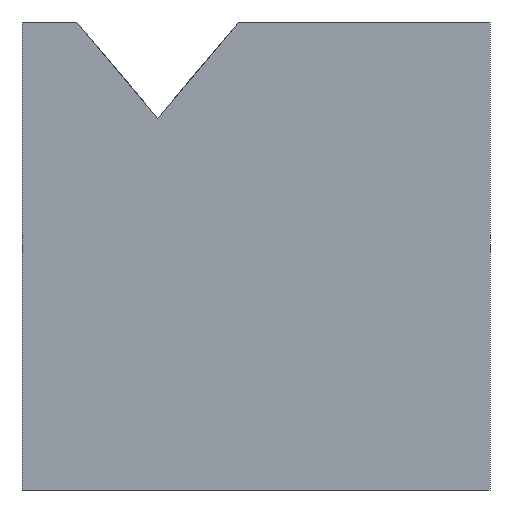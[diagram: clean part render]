
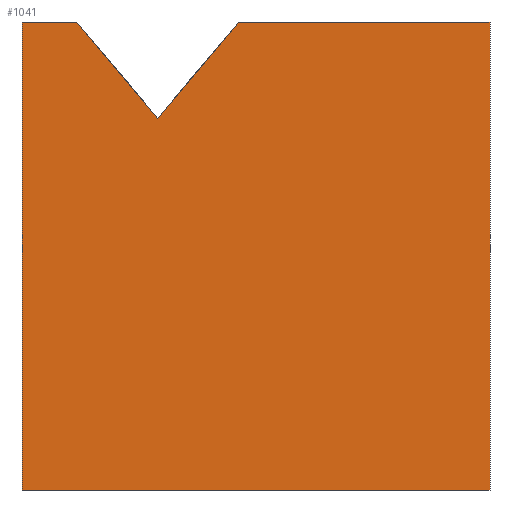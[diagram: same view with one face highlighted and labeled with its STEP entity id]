
A CAD part, front view. The second image highlights one B-rep face of the part: STEP entity #1041.
In plain terms, the highlighted planar face has unit normal (0, -1, 0).
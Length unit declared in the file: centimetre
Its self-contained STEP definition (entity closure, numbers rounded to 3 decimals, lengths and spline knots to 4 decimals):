
#3 = LINE ( 'NONE', #389, #436 ) ;
#23 = LINE ( 'NONE', #394, #724 ) ;
#49 = CARTESIAN_POINT ( 'NONE',  ( 290.0061, 0., 794.0008 ) ) ;
#83 = LINE ( 'NONE', #661, #259 ) ;
#98 = VECTOR ( 'NONE', #574, 100. ) ;
#104 = CARTESIAN_POINT ( 'NONE',  ( 0., 0., 1000. ) ) ;
#123 = DIRECTION ( 'NONE',  ( 1., 0., 0. ) ) ;
#140 = VECTOR ( 'NONE', #123, 100. ) ;
#141 = EDGE_CURVE ( 'NONE', #845, #633, #83, .T. ) ;
#149 = EDGE_LOOP ( 'NONE', ( #388, #446, #1159, #409, #181, #925, #331 ) ) ;
#171 = LINE ( 'NONE', #381, #98 ) ;
#181 = ORIENTED_EDGE ( 'NONE', *, *, #694, .T. ) ;
#194 = CARTESIAN_POINT ( 'NONE',  ( 117.1942, 0., 1000. ) ) ;
#259 = VECTOR ( 'NONE', #581, 100. ) ;
#271 = CARTESIAN_POINT ( 'NONE',  ( 1000., 0., 1000. ) ) ;
#307 = DIRECTION ( 'NONE',  ( 0., 1., 0. ) ) ;
#312 = CARTESIAN_POINT ( 'NONE',  ( 0., 0., 0. ) ) ;
#331 = ORIENTED_EDGE ( 'NONE', *, *, #572, .F. ) ;
#352 = VERTEX_POINT ( 'NONE', #104 ) ;
#380 = AXIS2_PLACEMENT_3D ( 'NONE', #393, #307, #1065 ) ;
#381 = CARTESIAN_POINT ( 'NONE',  ( 0., 0., 1000. ) ) ;
#388 = ORIENTED_EDGE ( 'NONE', *, *, #1215, .F. ) ;
#389 = CARTESIAN_POINT ( 'NONE',  ( 0., 0., 0. ) ) ;
#393 = CARTESIAN_POINT ( 'NONE',  ( 0., 0., 1000. ) ) ;
#394 = CARTESIAN_POINT ( 'NONE',  ( 0., 0., 1000. ) ) ;
#409 = ORIENTED_EDGE ( 'NONE', *, *, #1136, .F. ) ;
#425 = VECTOR ( 'NONE', #652, 100. ) ;
#436 = VECTOR ( 'NONE', #747, 100. ) ;
#446 = ORIENTED_EDGE ( 'NONE', *, *, #141, .F. ) ;
#448 = CARTESIAN_POINT ( 'NONE',  ( 1000., 0., 1000. ) ) ;
#494 = FACE_OUTER_BOUND ( 'NONE', #149, .T. ) ;
#572 = EDGE_CURVE ( 'NONE', #834, #797, #840, .T. ) ;
#574 = DIRECTION ( 'NONE',  ( 0., 0., -1. ) ) ;
#581 = DIRECTION ( 'NONE',  ( 0.643, 0., 0.766 ) ) ;
#633 = VERTEX_POINT ( 'NONE', #1140 ) ;
#648 = EDGE_CURVE ( 'NONE', #649, #845, #675, .T. ) ;
#649 = VERTEX_POINT ( 'NONE', #194 ) ;
#652 = DIRECTION ( 'NONE',  ( 0., 0., -1. ) ) ;
#661 = CARTESIAN_POINT ( 'NONE',  ( 290.0061, 0., 794.0008 ) ) ;
#675 = LINE ( 'NONE', #847, #869 ) ;
#694 = EDGE_CURVE ( 'NONE', #352, #1190, #171, .T. ) ;
#703 = DIRECTION ( 'NONE',  ( 1., 0., 0. ) ) ;
#724 = VECTOR ( 'NONE', #703, 100. ) ;
#747 = DIRECTION ( 'NONE',  ( 1., 0., 0. ) ) ;
#775 = CARTESIAN_POINT ( 'NONE',  ( 0., 0., 1000. ) ) ;
#797 = VERTEX_POINT ( 'NONE', #1201 ) ;
#834 = VERTEX_POINT ( 'NONE', #448 ) ;
#840 = LINE ( 'NONE', #271, #425 ) ;
#845 = VERTEX_POINT ( 'NONE', #49 ) ;
#847 = CARTESIAN_POINT ( 'NONE',  ( 117.1942, 0., 1000. ) ) ;
#869 = VECTOR ( 'NONE', #1037, 100. ) ;
#925 = ORIENTED_EDGE ( 'NONE', *, *, #998, .T. ) ;
#968 = PLANE ( 'NONE',  #380 ) ;
#998 = EDGE_CURVE ( 'NONE', #1190, #797, #3, .T. ) ;
#1037 = DIRECTION ( 'NONE',  ( 0.643, 0., -0.766 ) ) ;
#1041 = ADVANCED_FACE ( 'NONE', ( #494 ), #968, .F. ) ;
#1065 = DIRECTION ( 'NONE',  ( 0., 0., 1. ) ) ;
#1089 = LINE ( 'NONE', #775, #140 ) ;
#1136 = EDGE_CURVE ( 'NONE', #352, #649, #23, .T. ) ;
#1140 = CARTESIAN_POINT ( 'NONE',  ( 462.818, 0., 1000. ) ) ;
#1159 = ORIENTED_EDGE ( 'NONE', *, *, #648, .F. ) ;
#1190 = VERTEX_POINT ( 'NONE', #312 ) ;
#1201 = CARTESIAN_POINT ( 'NONE',  ( 1000., 0., 0. ) ) ;
#1215 = EDGE_CURVE ( 'NONE', #633, #834, #1089, .T. ) ;
